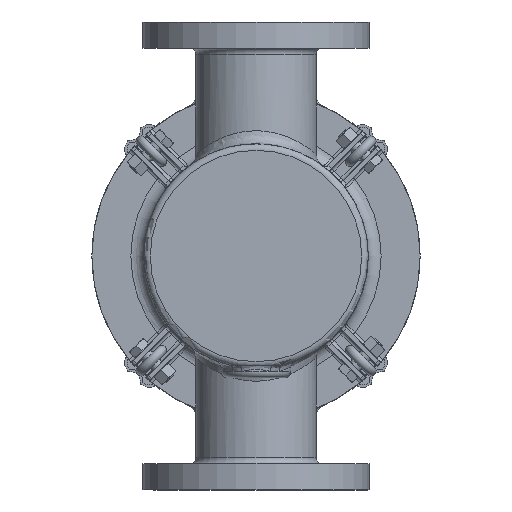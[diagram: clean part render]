
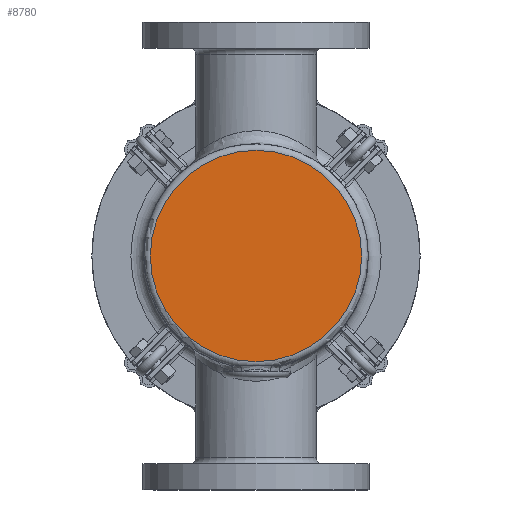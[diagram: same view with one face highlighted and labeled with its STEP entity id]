
A CAD part, front view. The second image highlights one B-rep face of the part: STEP entity #8780.
In plain terms, the highlighted planar face has unit normal (0, -1, 0).
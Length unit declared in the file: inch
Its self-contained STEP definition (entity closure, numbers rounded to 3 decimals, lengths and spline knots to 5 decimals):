
#1149=PLANE('',#9373);
#1800=FACE_OUTER_BOUND('',#2372,.T.);
#2372=EDGE_LOOP('',(#5950));
#3266=CIRCLE('',#9369,4.0625);
#3859=VERTEX_POINT('',#13730);
#4670=EDGE_CURVE('',#3859,#3859,#3266,.T.);
#5950=ORIENTED_EDGE('',*,*,#4670,.F.);
#8780=ADVANCED_FACE('',(#1800),#1149,.F.);
#9369=AXIS2_PLACEMENT_3D('',#13731,#10574,#10575);
#9373=AXIS2_PLACEMENT_3D('',#13736,#10582,#10583);
#10574=DIRECTION('center_axis',(0.,1.,0.));
#10575=DIRECTION('ref_axis',(1.,0.,0.));
#10582=DIRECTION('center_axis',(0.,1.,0.));
#10583=DIRECTION('ref_axis',(0.,0.,1.));
#13730=CARTESIAN_POINT('',(-4.0625,0.,0.));
#13731=CARTESIAN_POINT('Origin',(0.,0.,0.));
#13736=CARTESIAN_POINT('Origin',(0.,0.,0.));
